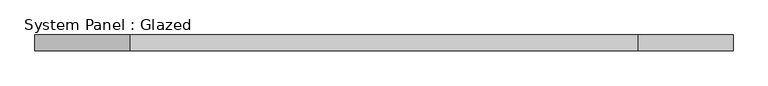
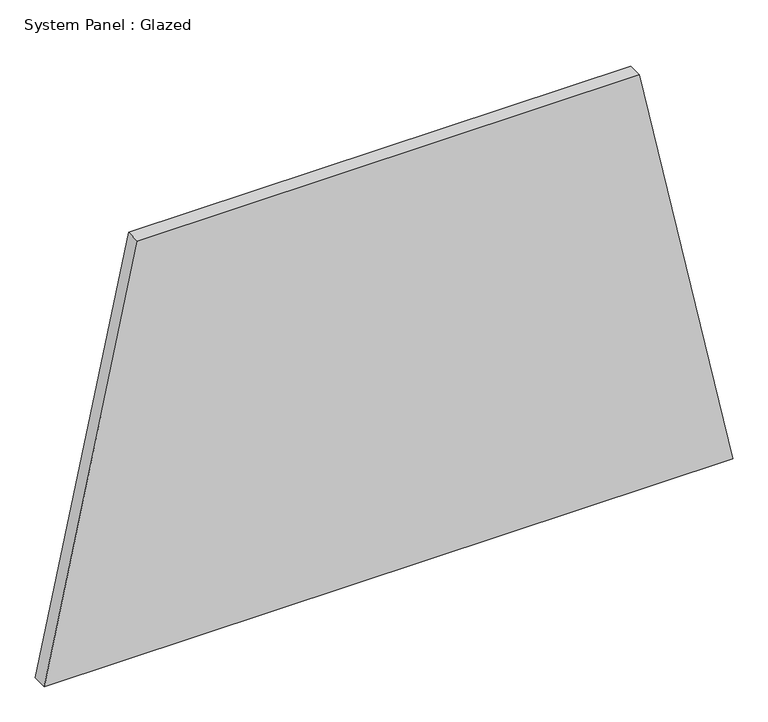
"""IFC4 building model written with IfcOpenShell, lengths in millimetres: plate geometry, System Panel : Glazed."""

import ifcopenshell
import ifcopenshell.guid

model = None  # the IFC model being written
_history = None  # IfcOwnerHistory: only IFC2X3 demands one
_inside = {}  # id of a spatial element -> (the spatial element, [elements in it])
_under = {}  # id of a project, library or spatial element -> (it, [spatial elements below it])
_declared = {}  # id of a project -> (the project, [libraries it declares])
_typed = {}  # id of a type object -> (the type object, [elements of that type])
_made_of = {}  # id of a material, layer set ... -> (it, [elements and type objects made of it])


def new_model(schema):
    """Start an empty IFC model of exactly this schema.

    Asked for "IFC4X3", IfcOpenShell would pick the latest addendum, in which some entities
    have other attributes; the version numbers below select the first issue.
    IFC2X3 requires an IfcOwnerHistory on every rooted entity: one is made here for all.
    """
    global model, _history
    if schema == "IFC4X3":
        model = ifcopenshell.file(schema_version=(4, 3, 0, 0))
    else:
        model = ifcopenshell.file(schema=schema)
    _inside.clear()
    _under.clear()
    _declared.clear()
    _typed.clear()
    _made_of.clear()
    _history = None
    if model.schema == "IFC2X3":
        org = make("IfcOrganization", Name="unknown")
        user = make(
            "IfcPersonAndOrganization",
            ThePerson=make("IfcPerson", FamilyName="unknown"),
            TheOrganization=org,
        )
        app = make(
            "IfcApplication",
            ApplicationDeveloper=org,
            Version="unknown",
            ApplicationFullName="unknown",
            ApplicationIdentifier="unknown",
        )
        _history = make(
            "IfcOwnerHistory",
            OwningUser=user,
            OwningApplication=app,
            ChangeAction="ADDED",
            CreationDate=0,
        )
    return model


def make(cls, **values):
    """One entity of the class cls with the attributes given. An attribute that is None is left unset."""
    return model.create_entity(
        cls, **{name: value for name, value in values.items() if value is not None}
    )


def rooted(cls, **values):
    """An entity with a GlobalId (a new one), such as an element, a storey or a relation."""
    return make(cls, GlobalId=ifcopenshell.guid.new(), OwnerHistory=_history, **values)


def si_unit(unit_type, name, prefix=None):
    """IfcSIUnit, for example si_unit("LENGTHUNIT", "METRE", prefix="MILLI")."""
    return make("IfcSIUnit", UnitType=unit_type, Prefix=prefix, Name=name)


def assignment(units):
    """IfcUnitAssignment: the units of a project."""
    return None if units is None else make("IfcUnitAssignment", Units=units)


def point(xyz):
    """IfcCartesianPoint."""
    return None if xyz is None else make("IfcCartesianPoint", Coordinates=xyz)


def direction(xyz):
    """IfcDirection."""
    return None if xyz is None else make("IfcDirection", DirectionRatios=xyz)


def frame(location, z_axis=None, x_axis=None):
    """IfcAxis2Placement3D, a coordinate frame: its origin and axes. An axis left out is left unset."""
    return make(
        "IfcAxis2Placement3D",
        Location=point(location),
        Axis=direction(z_axis),
        RefDirection=direction(x_axis),
    )


def origin():
    """The frame at (0, 0, 0) with its axes left unset."""
    return frame((0.0, 0.0, 0.0))


def place(relative_to, where):
    """IfcLocalPlacement: puts the frame where relative to a parent placement (None: the world)."""
    return make(
        "IfcLocalPlacement", PlacementRelTo=relative_to, RelativePlacement=where
    )


def context(
    kind, dimensions, precision=None, world=None, true_north=None, identifier=None
):
    """IfcGeometricRepresentationContext, for example the 3D "Model" context."""
    return make(
        "IfcGeometricRepresentationContext",
        ContextIdentifier=identifier,
        ContextType=kind,
        CoordinateSpaceDimension=dimensions,
        Precision=precision,
        WorldCoordinateSystem=world,
        TrueNorth=true_north,
    )


def project(units=None, contexts=None):
    """IfcProject with its units and contexts."""
    return rooted(
        "IfcProject",
        Name="project",
        RepresentationContexts=contexts,
        UnitsInContext=assignment(units),
    )


def spatial(cls, under=None, at=None, **own):
    """A site, building, storey or space (cls), placed at a placement, below another one or the project."""
    s = rooted(cls, ObjectPlacement=at, **own)
    if under is not None:
        _under.setdefault(under.id(), (under, []))[1].append(s)
    return s


def polyline(points):
    """IfcPolyline through the points."""
    return make("IfcPolyline", Points=[point(p) for p in points])


def outline(outer, holes=None, kind="AREA"):
    """IfcArbitraryClosedProfileDef: a profile drawn as a closed curve; with holes, ...WithVoids."""
    if holes is None:
        return make("IfcArbitraryClosedProfileDef", ProfileType=kind, OuterCurve=outer)
    return make(
        "IfcArbitraryProfileDefWithVoids",
        ProfileType=kind,
        OuterCurve=outer,
        InnerCurves=holes,
    )


def extrude(swept, where, along, depth):
    """IfcExtrudedAreaSolid: the profile swept, set in the frame where, extruded along a direction by depth."""
    return make(
        "IfcExtrudedAreaSolid",
        SweptArea=swept,
        Position=where,
        ExtrudedDirection=direction(along),
        Depth=depth,
    )


def shape(context_of_items, identifier, shape_type, items):
    """IfcShapeRepresentation: the items that make up one representation, for example the "Body"."""
    return make(
        "IfcShapeRepresentation",
        ContextOfItems=context_of_items,
        RepresentationIdentifier=identifier,
        RepresentationType=shape_type,
        Items=items,
    )


def source(mapping_origin, context_of_items, identifier, shape_type, items):
    """IfcRepresentationMap: a shape defined once, which mapped items show again and again."""
    return make(
        "IfcRepresentationMap",
        MappingOrigin=mapping_origin,
        MappedRepresentation=shape(context_of_items, identifier, shape_type, items),
    )


def transform(
    local_origin,
    x_axis=None,
    y_axis=None,
    z_axis=None,
    scale=None,
    scale2=None,
    scale3=None,
    uniform=True,
):
    """IfcCartesianTransformationOperator3D, or its non-uniform kind. x_axis, y_axis, z_axis: its Axis1, 2, 3."""
    if uniform:
        return make(
            "IfcCartesianTransformationOperator3D",
            Axis1=direction(x_axis),
            Axis2=direction(y_axis),
            LocalOrigin=point(local_origin),
            Scale=scale,
            Axis3=direction(z_axis),
        )
    return make(
        "IfcCartesianTransformationOperator3DnonUniform",
        Axis1=direction(x_axis),
        Axis2=direction(y_axis),
        LocalOrigin=point(local_origin),
        Scale=scale,
        Axis3=direction(z_axis),
        Scale2=scale2,
        Scale3=scale3,
    )


def mapped(mapping_source, mapping_target):
    """IfcMappedItem: shows the shape of a source again, moved by a transform."""
    return make(
        "IfcMappedItem", MappingSource=mapping_source, MappingTarget=mapping_target
    )


def made_of(thing, what):
    """Note that an element or type object is made of a material, layer set ...; save() writes the relation."""
    if what is not None:
        _made_of.setdefault(what.id(), (what, []))[1].append(thing)
    return thing


def element(
    cls,
    number,
    at=None,
    inside=None,
    cuts=None,
    type_object=None,
    material=None,
    context=None,
    identifier="Body",
    shape_type=None,
    held_by="IfcProductDefinitionShape",
    body=None,
    shapes=None,
    **own,
):
    """One element of the class cls, such as IfcWall. Its Tag is "e" and its number.

    at: its placement. inside: the storey or other place that contains it. cuts: it is an
    opening in that element (IfcRelVoidsElement). A single representation is given by context,
    identifier, shape_type and body (its items); several are given by shapes. held_by: the class
    of the entity that holds the representations. save() writes the other relations.
    """
    e = rooted(cls, Tag="e%d" % number, ObjectPlacement=at, **own)
    if body is not None:
        shapes = [shape(context, identifier, shape_type, body)]
    if shapes is not None:
        e.Representation = make(held_by, Representations=shapes)
    if inside is not None:
        _inside.setdefault(inside.id(), (inside, []))[1].append(e)
    if cuts is not None:
        rooted(
            "IfcRelVoidsElement", RelatingBuildingElement=cuts, RelatedOpeningElement=e
        )
    if type_object is not None:
        _typed.setdefault(type_object.id(), (type_object, []))[1].append(e)
    return made_of(e, material)


def aggregate(whole, parts):
    """IfcRelAggregates: a whole, such as a stair, and the parts it consists of."""
    return rooted("IfcRelAggregates", RelatingObject=whole, RelatedObjects=parts)


def save(model, path):
    """Write the relations noted so far, then the file.

    IfcRelAggregates (storeys below a building ...), IfcRelContainedInSpatialStructure (elements
    in a storey), IfcRelDefinesByType, IfcRelAssociatesMaterial and IfcRelDeclares: one each for
    every whole, place, type object, material and project.
    """
    for whole, parts in _under.values():
        aggregate(whole, parts)
    for where, things in _inside.values():
        rooted(
            "IfcRelContainedInSpatialStructure",
            RelatedElements=things,
            RelatingStructure=where,
        )
    for kind, things in _typed.values():
        rooted("IfcRelDefinesByType", RelatedObjects=things, RelatingType=kind)
    for what, things in _made_of.values():
        rooted("IfcRelAssociatesMaterial", RelatedObjects=things, RelatingMaterial=what)
    for by, libraries in _declared.values():
        rooted("IfcRelDeclares", RelatingContext=by, RelatedDefinitions=libraries)
    model.write(path)


def system_panel_glazed_cc30576f(model_context):
    return source(origin(), model_context, "Body", "SweptSolid", [
        extrude(outline(polyline([(0.0, -565.5021612), (0.0, 565.5021612), (719.8713464, 412.1228866), (719.8713464, -412.1228866), (0.0, -565.5021612)])), frame((0.0, -44.45, 0.0), z_axis=(0.0, 1.0, 0.0), x_axis=(0.0, 0.0, 1.0)), (0.0, 0.0, 1.0), 25.4),
    ])


if __name__ == "__main__":
    model = new_model("IFC4")
    model_context = context("Model", 3, world=origin())
    ifc_project = project(units=[si_unit("LENGTHUNIT", "METRE", prefix="MILLI")], contexts=[model_context])
    site = spatial("IfcSite", under=ifc_project)
    building = spatial("IfcBuilding", under=site)
    placement = place(None, origin())
    system_panel_glazed_shape = system_panel_glazed_cc30576f(model_context)
    element("IfcPlate", 1, ObjectType="System Panel : Glazed", at=placement, inside=building, context=model_context, shape_type="MappedRepresentation", body=[
        mapped(system_panel_glazed_shape, transform((0.0, 0.0, 0.0), x_axis=(1.0, 0.0, 0.0), y_axis=(0.0, 1.0, 0.0), z_axis=(0.0, 0.0, 1.0))),
    ])
    save(model, "model.ifc")
